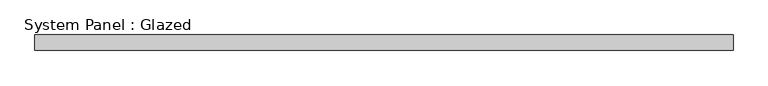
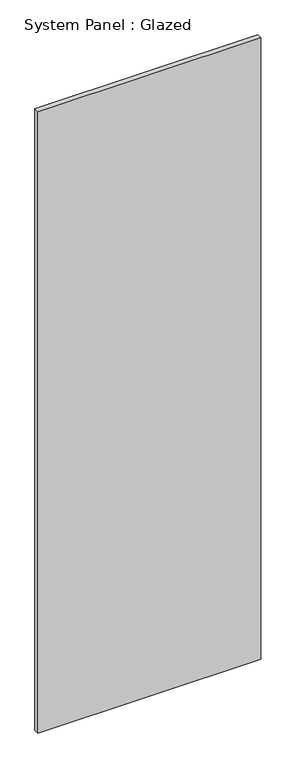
"""IFC4 building model written with IfcOpenShell, lengths in millimetres: plate geometry, System Panel : Glazed."""

from ifc_helpers import new_model, si_unit, origin, origin_with_axes, place, context, project, spatial, polyline, outline, extrude, source, transform, mapped, element, save


def system_panel_glazed_ed1850e7(model_context):
    return source(origin(), model_context, "Body", "SweptSolid", [
        extrude(outline(polyline([(560.0, 24.5), (-560.0, 24.5), (-560.0, 49.5), (560.0, 49.5), (560.0, 24.5)])), origin_with_axes(), (0.0, 0.0, 1.0), 3300.0),
    ])


if __name__ == "__main__":
    model = new_model("IFC4")
    model_context = context("Model", 3, world=origin())
    ifc_project = project(units=[si_unit("LENGTHUNIT", "METRE", prefix="MILLI")], contexts=[model_context])
    site = spatial("IfcSite", under=ifc_project)
    building = spatial("IfcBuilding", under=site)
    placement = place(None, origin())
    system_panel_glazed_shape = system_panel_glazed_ed1850e7(model_context)
    element("IfcPlate", 1, ObjectType="System Panel : Glazed", at=placement, inside=building, context=model_context, shape_type="MappedRepresentation", body=[
        mapped(system_panel_glazed_shape, transform((0.0, 0.0, 0.0), x_axis=(1.0, 0.0, 0.0), y_axis=(0.0, 1.0, 0.0), z_axis=(0.0, 0.0, 1.0))),
    ])
    save(model, "model.ifc")
